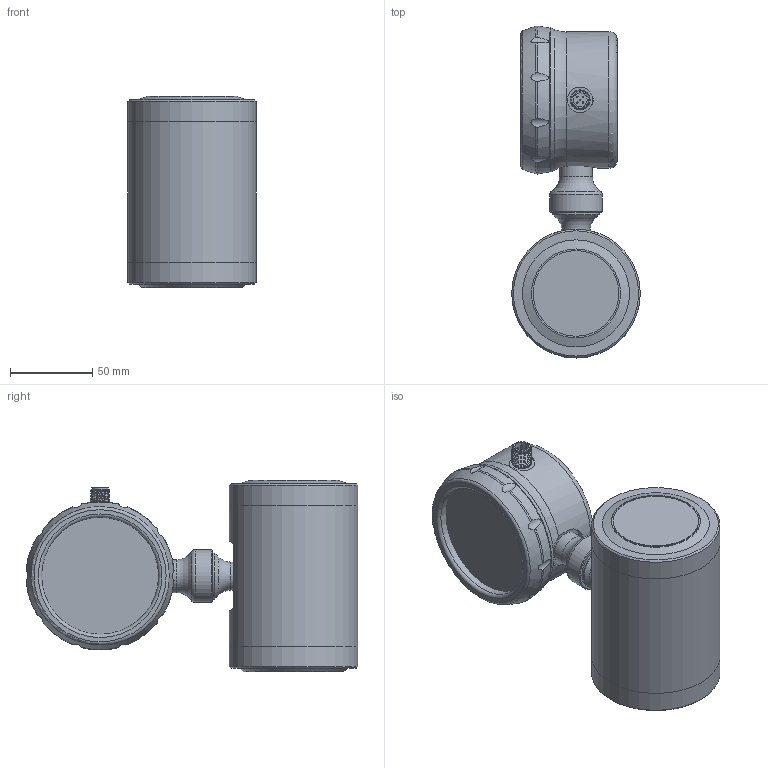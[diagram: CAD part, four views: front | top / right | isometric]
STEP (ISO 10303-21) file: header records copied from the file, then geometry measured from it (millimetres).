
FILE_DESCRIPTION( (''), '2;1');
FILE_NAME( 'QMKD_DN25_H50.5_tie-rod.step', '2024-08-30T08:32:04+08:00', (''), (''), '', '', '');
FILE_SCHEMA (('AUTOMOTIVE_DESIGN { 1 0 10303 214 3 1 1 1 }'));
Length unit declared in the file: millimetre
Products named in the file (1): QMKD DN25_H50.5_tie-rod
Bounding box: 78 x 201.37 x 116 mm (x, y, z)
Volume: 882699.1 mm3; surface area: 113597.2 mm2
Topology: 9 solids, 9 shells, 177 faces, 419 edges, 267 vertices
Faces by surface type: cylinder 70, plane 40, sphere 20, torus 18, cone 17, bspline 12
Full cylindrical faces by diameter (mm): 11.6 x1, 15 x2, 15.5 x1, 17 x1, 18 x1, 20 x1, 26 x1, 28 x1, 32 x1, 71 x1, 78 x3, 80 x2, 83 x1
Entity records: 7468 total; most frequent: CARTESIAN_POINT 3775, DIRECTION 737, ORIENTED_EDGE 686, EDGE_CURVE 343, AXIS2_PLACEMENT_3D 341, VERTEX_POINT 246, EDGE_LOOP 239, ADVANCED_FACE 176
